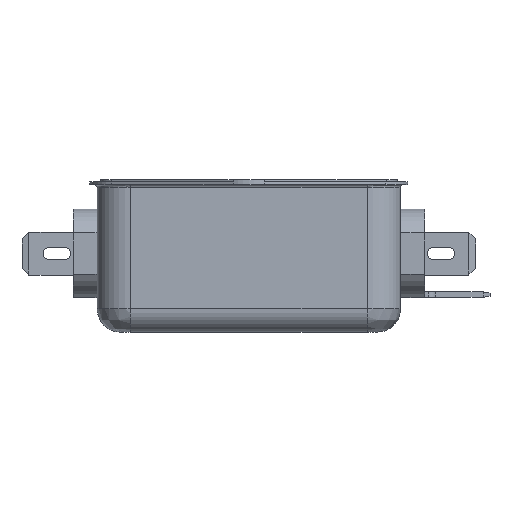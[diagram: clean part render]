
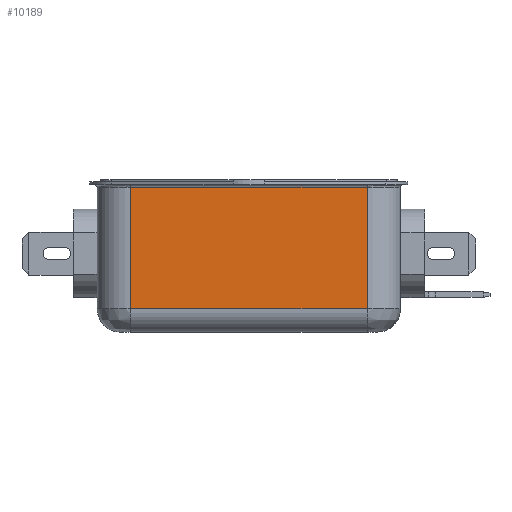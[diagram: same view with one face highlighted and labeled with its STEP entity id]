
A CAD part, left-side view. The second image highlights one B-rep face of the part: STEP entity #10189.
In plain terms, the highlighted planar face has unit normal (-1, 0, 0).
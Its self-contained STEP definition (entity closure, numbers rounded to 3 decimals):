
#9203=CARTESIAN_POINT('',(-18.073,-9.687,21.2));
#9204=VERTEX_POINT('',#9203);
#9229=CARTESIAN_POINT('',(-18.073,25.013,21.2));
#9230=VERTEX_POINT('',#9229);
#9238=CARTESIAN_POINT('',(-18.073,25.013,21.2));
#9239=DIRECTION('',(0.0,-1.0,0.0));
#9240=VECTOR('',#9239,34.7);
#9241=LINE('',#9238,#9240);
#9242=EDGE_CURVE('',#9230,#9204,#9241,.T.);
#9625=CARTESIAN_POINT('',(-18.073,-9.687,3.4));
#9626=VERTEX_POINT('',#9625);
#9627=CARTESIAN_POINT('',(-18.073,-9.687,21.2));
#9628=DIRECTION('',(0.0,0.0,-1.0));
#9629=VECTOR('',#9628,17.8);
#9630=LINE('',#9627,#9629);
#9631=EDGE_CURVE('',#9204,#9626,#9630,.T.);
#10166=CARTESIAN_POINT('',(-18.073,-14.587,0.0));
#10167=DIRECTION('',(-1.0,0.0,0.0));
#10168=DIRECTION('',(0.0,0.0,1.0));
#10169=AXIS2_PLACEMENT_3D('',#10166,#10167,#10168);
#10170=PLANE('',#10169);
#10171=ORIENTED_EDGE('',*,*,#9242,.F.);
#10172=CARTESIAN_POINT('',(-18.073,25.013,3.4));
#10173=VERTEX_POINT('',#10172);
#10174=CARTESIAN_POINT('',(-18.073,25.013,3.4));
#10175=DIRECTION('',(0.0,0.0,1.0));
#10176=VECTOR('',#10175,17.8);
#10177=LINE('',#10174,#10176);
#10178=EDGE_CURVE('',#10173,#9230,#10177,.T.);
#10179=ORIENTED_EDGE('',*,*,#10178,.F.);
#10180=CARTESIAN_POINT('',(-18.073,-9.687,3.4));
#10181=DIRECTION('',(0.0,1.0,0.0));
#10182=VECTOR('',#10181,34.7);
#10183=LINE('',#10180,#10182);
#10184=EDGE_CURVE('',#9626,#10173,#10183,.T.);
#10185=ORIENTED_EDGE('',*,*,#10184,.F.);
#10186=ORIENTED_EDGE('',*,*,#9631,.F.);
#10187=EDGE_LOOP('',(#10171,#10179,#10185,#10186));
#10188=FACE_OUTER_BOUND('',#10187,.T.);
#10189=ADVANCED_FACE('',(#10188),#10170,.T.);
